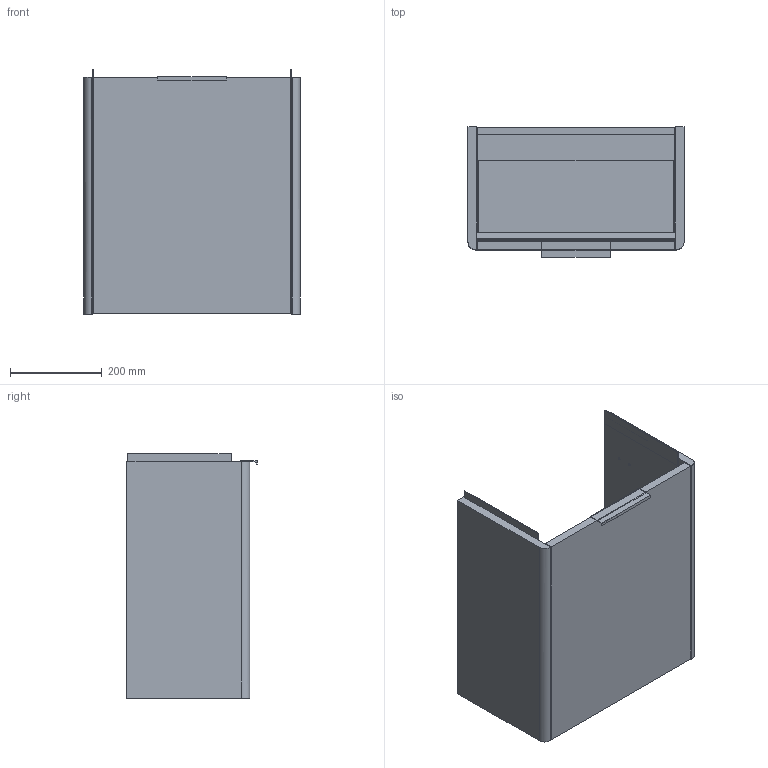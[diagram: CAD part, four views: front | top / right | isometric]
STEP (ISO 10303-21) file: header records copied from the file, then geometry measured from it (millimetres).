
FILE_DESCRIPTION(/* description */ (''),/* implementation_level */ '2;1');
FILE_NAME(/* name */ '3D01_4~2',/* time_stamp */ '2018-05-07T13:25:40+02:00',/* author */ (''),/* organization */ (''),/* preprocessor_version */ 'ST-DEVELOPER v15',/* originating_system */ '',/* authorisation */ '');
FILE_SCHEMA (('AUTOMOTIVE_DESIGN'));
Length unit declared in the file: millimetre
Products named in the file (10): Document; Maniglia; Fianco dx; Fascia frontale; Catena retro; Fondo mobile; Fascia rialzo; Fianco sx; Ripiano vetro; Anta
Assembly tree (9 placements, depth 2):
  Document
    Maniglia
    Fianco dx
    Fascia frontale
    Catena retro
    Fondo mobile
    Fascia rialzo
    Fianco sx
    Ripiano vetro
    Anta
Bounding box: 470 x 283.1 x 531 mm (x, y, z)
Volume: 12328492 mm3; surface area: 1653370.8 mm2
Topology: 10 solids, 10 shells, 95 faces, 233 edges, 166 vertices
Faces by surface type: plane 73, bspline 22
Entity records: 3012 total; most frequent: CARTESIAN_POINT 1081, ORIENTED_EDGE 466, EDGE_CURVE 233, VERTEX_POINT 166, B_SPLINE_CURVE_WITH_KNOTS 157, DIRECTION 129, EDGE_LOOP 103, AXIS2_PLACEMENT_3D 101
